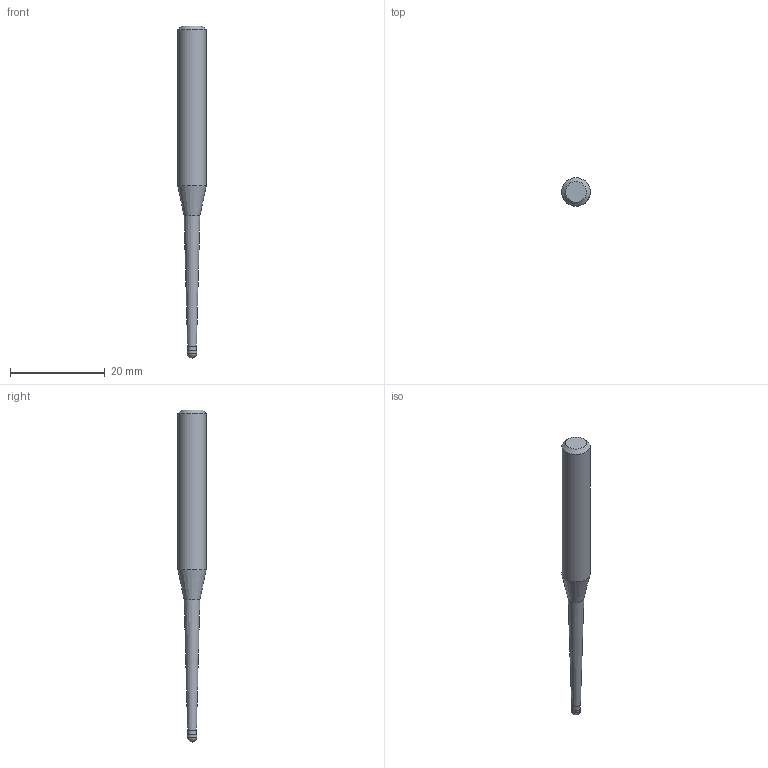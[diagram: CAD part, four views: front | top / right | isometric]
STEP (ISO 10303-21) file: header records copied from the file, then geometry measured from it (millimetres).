
FILE_DESCRIPTION((''),'2;1');
FILE_NAME('C:\Users\nsx150\AppData\Local\Temp\Mastercam 2021\E0ENTZRV18\TEMP.step','2021-09-02T09:56:59',(''),(''),'STEP Write','Mastercam 2021 ... CNC Software, Inc.','');
FILE_SCHEMA(('AUTOMOTIVE_DESIGN'));
Length unit declared in the file: millimetre
Products named in the file (1): None
Bounding box: 6 x 6 x 70 mm (x, y, z)
Volume: 1214.7 mm3; surface area: 994.4 mm2
Topology: 2 solids, 2 shells, 10 faces, 16 edges, 9 vertices
Faces by surface type: plane 3, cylinder 3, cone 3, sphere 1
Full cylindrical faces by diameter (mm): 1.875 x1, 2 x1, 6 x1
Entity records: 232 total; most frequent: DIRECTION 40, CARTESIAN_POINT 28, AXIS2_PLACEMENT_3D 20, ORIENTED_EDGE 16, EDGE_LOOP 16, STYLED_ITEM 13, ADVANCED_FACE 10, FACE_BOUND 9
